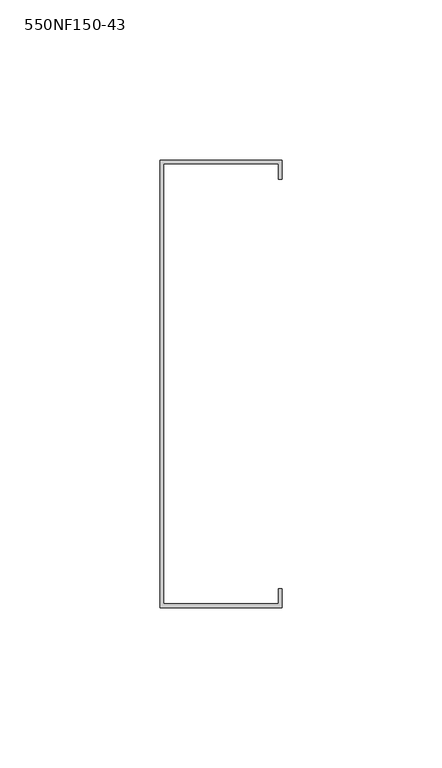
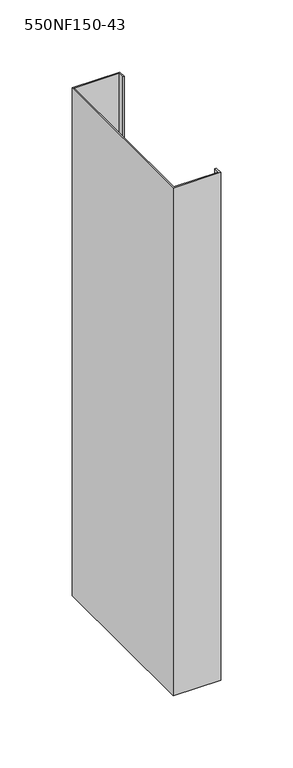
"""IFC4 building model written with IfcOpenShell, lengths in millimetres: column geometry, BIMSF-SSMA-S-Column : 550NF150-43."""

from ifc_helpers import new_model, si_unit, frame, origin, place, context, project, spatial, polyline, outline, extrude, source, transform, mapped, element, save


def column_550nf150_43_92f36f76(model_context):
    return source(origin(), model_context, "Body", "SweptSolid", [
        extrude(outline(polyline([(-11.9977877, -80.5871249), (-11.9977877, 59.1128751), (26.1022123, 59.1128751), (26.1022123, 53.1879908), (24.952528, 53.1879908), (24.952528, 57.9631908), (-10.8481035, 57.9631908), (-10.8481035, -79.4374407), (24.952528, -79.4374407), (24.952528, -74.6622407), (26.1022123, -74.6622407), (26.1022123, -80.5871249), (-11.9977877, -80.5871249)])), frame((0.0, 0.0, 5525.3929688), z_axis=(0.0, 0.0, 1.0), x_axis=(1.0, 0.0, 0.0)), (0.0, 0.0, 1.0), 429.2332427),
    ])


if __name__ == "__main__":
    model = new_model("IFC4")
    model_context = context("Model", 3, world=origin())
    ifc_project = project(units=[si_unit("LENGTHUNIT", "METRE", prefix="MILLI")], contexts=[model_context])
    site = spatial("IfcSite", under=ifc_project)
    building = spatial("IfcBuilding", under=site)
    placement = place(None, origin())
    column_550nf150_43_shape = column_550nf150_43_92f36f76(model_context)
    element("IfcColumn", 1, ObjectType="BIMSF-SSMA-S-Column : 550NF150-43", at=placement, inside=building, context=model_context, shape_type="MappedRepresentation", body=[
        mapped(column_550nf150_43_shape, transform((0.0, 0.0, 0.0), x_axis=(1.0, 0.0, 0.0), y_axis=(0.0, 1.0, 0.0), z_axis=(0.0, 0.0, 1.0))),
    ])
    save(model, "model.ifc")
